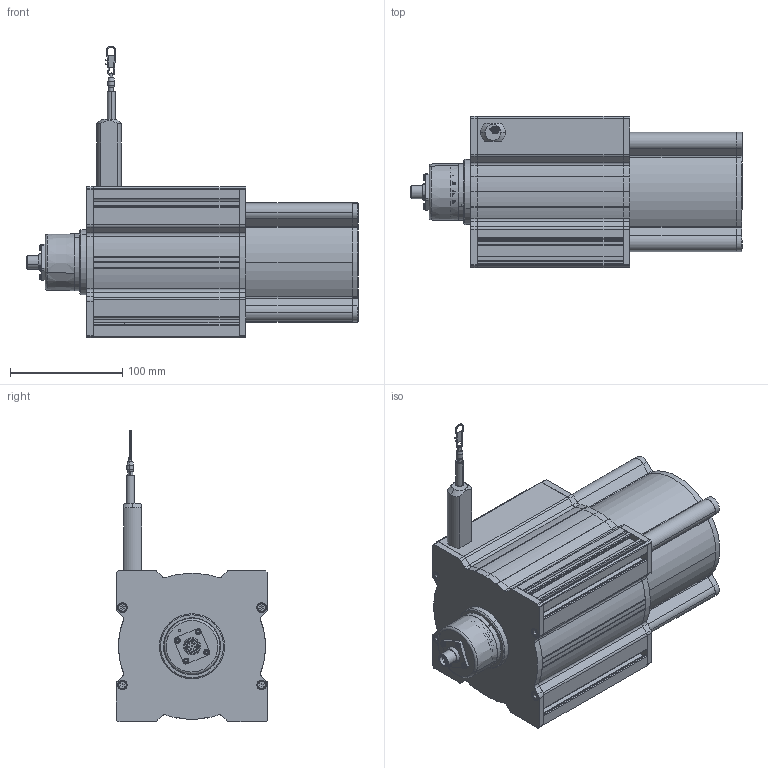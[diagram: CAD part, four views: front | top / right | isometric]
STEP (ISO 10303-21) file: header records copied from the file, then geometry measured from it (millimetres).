
FILE_DESCRIPTION (( 'STEP AP214' ), '1' );
FILE_NAME ('D8.4D1.4000.0053.2000.STEP', '2009-05-13T07:43:08', ( 'admin' ), ( 'Fritz Kübler GmbH' ), 'SwSTEP 2.0', 'SolidWorks 2009', '' );
FILE_SCHEMA (( 'AUTOMOTIVE_DESIGN' ));
Length unit declared in the file: millimetre
Products named in the file (1): D8.4D1.4000.0053.2000
Bounding box: 296 x 135 x 260.32 mm (x, y, z)
Volume: 741741 mm3; surface area: 403240 mm2
Topology: 30 solids, 30 shells, 1534 faces, 4057 edges, 2602 vertices
Faces by surface type: cylinder 699, plane 503, cone 182, torus 94, sphere 36, bspline 20
Entity records: 67454 total; most frequent: CARTESIAN_POINT 11356, DIRECTION 8663, ORIENTED_EDGE 7946, EDGE_CURVE 3973, AXIS2_PLACEMENT_3D 3390, VERTEX_POINT 2573, VECTOR 1883, LINE 1883
